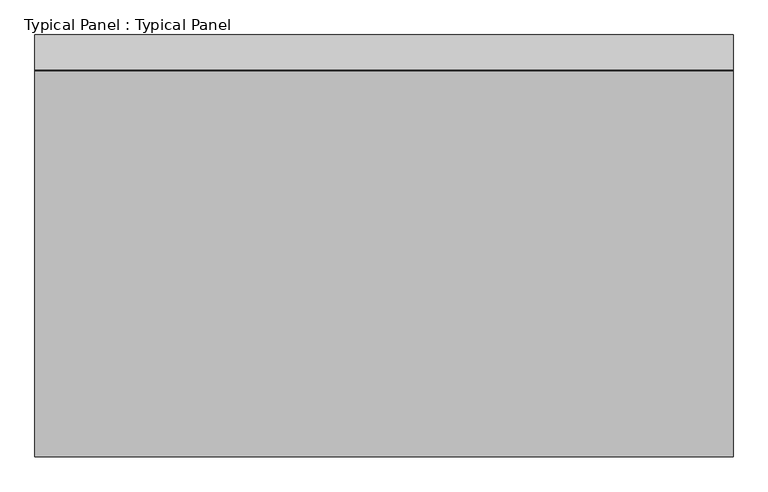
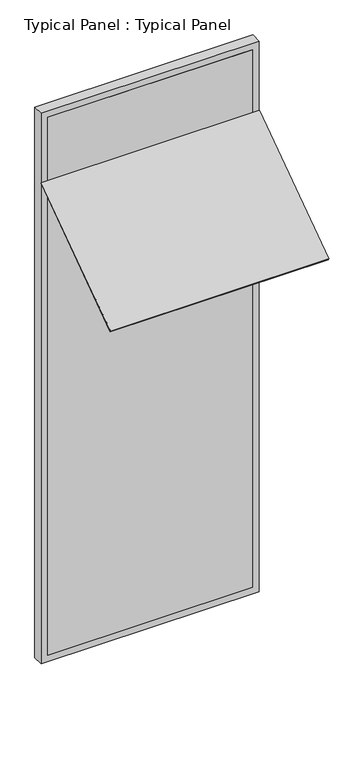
"""IFC4 building model written with IfcOpenShell, lengths in millimetres: plate geometry, Typical Panel : Typical Panel."""

from ifc_helpers import new_model, si_unit, frame, origin, place, context, project, spatial, polyline, outline, extrude, source, transform, mapped, element, save


def typical_panel_typical_panel_529db082(model_context):
    return source(origin(), model_context, "Body", "SweptSolid", [
        extrude(outline(polyline([(0.0, -1010.0000001), (0.0, 0.0), (1500.0, 0.0), (1500.0, -1010.0000001), (0.0, -1010.0000001)])), frame((750.0, -826.6078004, 2912.4962788), z_axis=(0.0, -0.5735764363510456, 0.8191520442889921), x_axis=(-1.0, 0.0, 0.0)), (0.0, 0.0, 1.0), 10.0),
        extrude(outline(polyline([(0.0, -750.0), (0.0, 750.0), (4000.0, 750.0), (4000.0, -750.0), (0.0, -750.0)]), holes=[polyline([(45.0, 705.0), (45.0, -705.0), (3955.0, -705.0), (3955.0, 705.0), (45.0, 705.0)])]), frame((0.0, -1.5797986, 0.0), z_axis=(0.0, 1.0, 0.0), x_axis=(0.0, 0.0, 1.0)), (0.0, 0.0, 1.0), 75.0),
        extrude(outline(polyline([(705.0, -1.5797986), (-705.0, -1.5797986), (-705.0, 13.4202014), (705.0, 13.4202014), (705.0, -1.5797986)])), frame((0.0, 0.0, 45.0), z_axis=(0.0, 0.0, 1.0), x_axis=(1.0, 0.0, 0.0)), (0.0, 0.0, 1.0), 3910.0),
    ])


if __name__ == "__main__":
    model = new_model("IFC4")
    model_context = context("Model", 3, world=origin())
    ifc_project = project(units=[si_unit("LENGTHUNIT", "METRE", prefix="MILLI")], contexts=[model_context])
    site = spatial("IfcSite", under=ifc_project)
    building = spatial("IfcBuilding", under=site)
    placement = place(None, origin())
    typical_panel_typical_panel_shape = typical_panel_typical_panel_529db082(model_context)
    element("IfcPlate", 1, ObjectType="Typical Panel : Typical Panel", at=placement, inside=building, context=model_context, shape_type="MappedRepresentation", body=[
        mapped(typical_panel_typical_panel_shape, transform((0.0, 0.0, 0.0), x_axis=(1.0, 0.0, 0.0), y_axis=(0.0, 1.0, 0.0), z_axis=(0.0, 0.0, 1.0))),
    ])
    save(model, "model.ifc")
